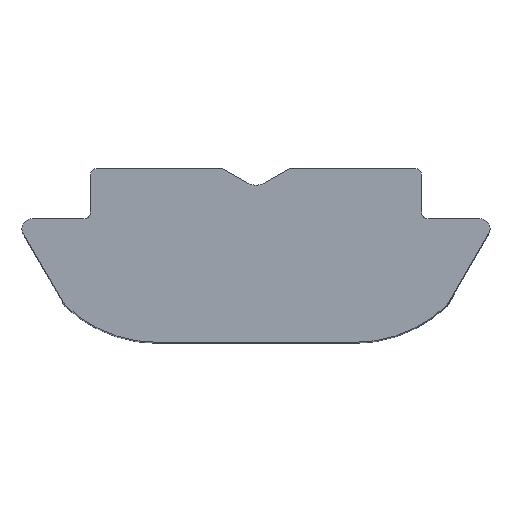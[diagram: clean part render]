
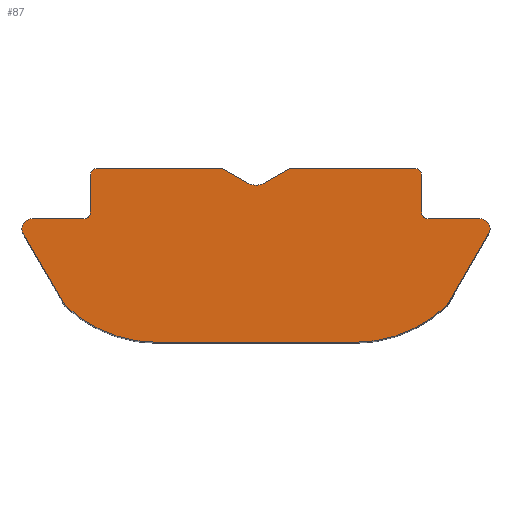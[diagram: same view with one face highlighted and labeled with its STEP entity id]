
A CAD part, top view. The second image highlights one B-rep face of the part: STEP entity #87.
In plain terms, the highlighted planar face has unit normal (0, 0, 1).
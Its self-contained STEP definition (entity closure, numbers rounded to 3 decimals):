
#87=ADVANCED_FACE('NONE',(#181),#182,.F.);
#181=FACE_OUTER_BOUND('',#279,.T.);
#182=PLANE('',#280);
#279=EDGE_LOOP('',(#478,#479,#480,#481,#482,#483,#484,#485,#486,#487,#488,#489,#490,#491,#492,#493,#494,#495,#496,#497,#498,#499,#500));
#280=AXIS2_PLACEMENT_3D('',#501,#502,#503);
#478=ORIENTED_EDGE('',*,*,#658,.T.);
#479=ORIENTED_EDGE('',*,*,#670,.T.);
#480=ORIENTED_EDGE('',*,*,#690,.T.);
#481=ORIENTED_EDGE('',*,*,#645,.T.);
#482=ORIENTED_EDGE('',*,*,#701,.T.);
#483=ORIENTED_EDGE('',*,*,#702,.T.);
#484=ORIENTED_EDGE('',*,*,#654,.T.);
#485=ORIENTED_EDGE('',*,*,#663,.T.);
#486=ORIENTED_EDGE('',*,*,#651,.T.);
#487=ORIENTED_EDGE('',*,*,#696,.T.);
#488=ORIENTED_EDGE('',*,*,#699,.T.);
#489=ORIENTED_EDGE('',*,*,#703,.T.);
#490=ORIENTED_EDGE('',*,*,#704,.T.);
#491=ORIENTED_EDGE('',*,*,#705,.T.);
#492=ORIENTED_EDGE('',*,*,#706,.T.);
#493=ORIENTED_EDGE('',*,*,#707,.T.);
#494=ORIENTED_EDGE('',*,*,#708,.T.);
#495=ORIENTED_EDGE('',*,*,#665,.T.);
#496=ORIENTED_EDGE('',*,*,#709,.T.);
#497=ORIENTED_EDGE('',*,*,#710,.T.);
#498=ORIENTED_EDGE('',*,*,#686,.T.);
#499=ORIENTED_EDGE('',*,*,#711,.T.);
#500=ORIENTED_EDGE('',*,*,#712,.T.);
#501=CARTESIAN_POINT('',(7.182,-2.158,9.5));
#502=DIRECTION('',(-0.0,-0.0,-1.0));
#503=DIRECTION('',(0.0,-1.0,0.0));
#645=EDGE_CURVE('NONE',#787,#785,#788,.T.);
#651=EDGE_CURVE('NONE',#791,#796,#798,.T.);
#654=EDGE_CURVE('NONE',#802,#800,#803,.T.);
#658=EDGE_CURVE('NONE',#808,#806,#809,.T.);
#663=EDGE_CURVE('NONE',#800,#791,#815,.T.);
#665=EDGE_CURVE('NONE',#817,#818,#819,.T.);
#670=EDGE_CURVE('NONE',#806,#823,#825,.T.);
#686=EDGE_CURVE('NONE',#851,#849,#852,.T.);
#690=EDGE_CURVE('NONE',#823,#787,#856,.T.);
#696=EDGE_CURVE('NONE',#796,#861,#863,.T.);
#699=EDGE_CURVE('NONE',#861,#865,#867,.T.);
#701=EDGE_CURVE('NONE',#785,#869,#870,.T.);
#702=EDGE_CURVE('NONE',#869,#802,#871,.T.);
#703=EDGE_CURVE('NONE',#865,#872,#873,.T.);
#704=EDGE_CURVE('NONE',#872,#874,#875,.T.);
#705=EDGE_CURVE('NONE',#874,#876,#877,.T.);
#706=EDGE_CURVE('NONE',#876,#878,#879,.T.);
#707=EDGE_CURVE('NONE',#878,#880,#881,.T.);
#708=EDGE_CURVE('NONE',#880,#817,#882,.T.);
#709=EDGE_CURVE('NONE',#818,#883,#884,.T.);
#710=EDGE_CURVE('NONE',#883,#851,#885,.T.);
#711=EDGE_CURVE('NONE',#849,#886,#887,.T.);
#712=EDGE_CURVE('NONE',#886,#808,#888,.T.);
#785=VERTEX_POINT('NONE',#972);
#787=VERTEX_POINT('NONE',#975);
#788=LINE('',#976,#977);
#791=VERTEX_POINT('NONE',#981);
#796=VERTEX_POINT('NONE',#997);
#798=LINE('',#1000,#1001);
#800=VERTEX_POINT('NONE',#1003);
#802=VERTEX_POINT('NONE',#1006);
#803=CIRCLE('',#1007,0.2);
#806=VERTEX_POINT('NONE',#1011);
#808=VERTEX_POINT('NONE',#1014);
#809=CIRCLE('',#1015,0.3);
#815=LINE('',#1023,#1024);
#817=VERTEX_POINT('NONE',#1026);
#818=VERTEX_POINT('NONE',#1027);
#819=CIRCLE('',#1028,0.3);
#823=VERTEX_POINT('',#1034);
#825=CIRCLE('',#1037,0.3);
#849=VERTEX_POINT('NONE',#1100);
#851=VERTEX_POINT('NONE',#1103);
#852=LINE('',#1104,#1105);
#856=CIRCLE('',#1110,0.3);
#861=VERTEX_POINT('NONE',#1121);
#863=CIRCLE('',#1124,0.5);
#865=VERTEX_POINT('NONE',#1126);
#867=LINE('',#1129,#1130);
#869=VERTEX_POINT('NONE',#1132);
#870=CIRCLE('',#1133,0.2);
#871=LINE('',#1134,#1135);
#872=VERTEX_POINT('NONE',#1136);
#873=LINE('',#1137,#1138);
#874=VERTEX_POINT('NONE',#1139);
#875=CIRCLE('',#1140,0.2);
#876=VERTEX_POINT('NONE',#1141);
#877=LINE('',#1142,#1143);
#878=VERTEX_POINT('NONE',#1144);
#879=CIRCLE('',#1145,0.2);
#880=VERTEX_POINT('NONE',#1146);
#881=LINE('',#1147,#1148);
#882=CIRCLE('',#1149,0.3);
#883=VERTEX_POINT('NONE',#1150);
#884=LINE('',#1151,#1152);
#885=CIRCLE('',#1153,4.0);
#886=VERTEX_POINT('NONE',#1154);
#887=CIRCLE('',#1155,4.0);
#888=LINE('',#1156,#1157);
#972=CARTESIAN_POINT('',(5.15,-1.5,9.5));
#975=CARTESIAN_POINT('',(6.7,-1.5,9.5));
#976=CARTESIAN_POINT('',(5.15,-1.5,9.5));
#977=VECTOR('',#1240,1000.0);
#981=CARTESIAN_POINT('',(1.0,0.,9.5));
#997=CARTESIAN_POINT('',(0.25,-0.433,9.5));
#1000=CARTESIAN_POINT('',(1.0,0.,9.5));
#1001=VECTOR('',#1244,1000.0);
#1003=CARTESIAN_POINT('',(4.75,0.,9.5));
#1006=CARTESIAN_POINT('',(4.95,-0.2,9.5));
#1007=AXIS2_PLACEMENT_3D('',#1246,#1247,#1248);
#1011=CARTESIAN_POINT('',(6.941,-1.979,9.5));
#1014=CARTESIAN_POINT('',(6.922,-2.008,9.5));
#1015=AXIS2_PLACEMENT_3D('',#1251,#1252,#1253);
#1023=CARTESIAN_POINT('',(4.75,0.,9.5));
#1024=VECTOR('',#1259,1000.0);
#1026=CARTESIAN_POINT('',(-7.0,-1.8,9.5));
#1027=CARTESIAN_POINT('',(-6.932,-1.99,9.5));
#1028=AXIS2_PLACEMENT_3D('',#1260,#1261,#1262);
#1034=CARTESIAN_POINT('',(7.0,-1.8,9.5));
#1037=AXIS2_PLACEMENT_3D('',#1266,#1267,#1268);
#1100=CARTESIAN_POINT('',(2.95,-5.2,9.5));
#1103=CARTESIAN_POINT('',(-2.95,-5.2,9.5));
#1104=CARTESIAN_POINT('',(-2.95,-5.2,9.5));
#1105=VECTOR('',#1279,1000.0);
#1110=AXIS2_PLACEMENT_3D('',#1284,#1285,#1286);
#1121=CARTESIAN_POINT('',(-0.25,-0.433,9.5));
#1124=AXIS2_PLACEMENT_3D('',#1288,#1289,#1290);
#1126=CARTESIAN_POINT('',(-1.,0.0,9.5));
#1129=CARTESIAN_POINT('',(-1.,0.0,9.5));
#1130=VECTOR('',#1292,1000.0);
#1132=CARTESIAN_POINT('',(4.95,-1.3,9.5));
#1133=AXIS2_PLACEMENT_3D('',#1293,#1294,#1295);
#1134=CARTESIAN_POINT('',(4.95,-0.2,9.5));
#1135=VECTOR('',#1296,1000.0);
#1136=CARTESIAN_POINT('',(-4.75,0.,9.5));
#1137=CARTESIAN_POINT('',(-1.,0.0,9.5));
#1138=VECTOR('',#1297,1000.0);
#1139=CARTESIAN_POINT('',(-4.95,-0.2,9.5));
#1140=AXIS2_PLACEMENT_3D('',#1298,#1299,#1300);
#1141=CARTESIAN_POINT('',(-4.95,-1.3,9.5));
#1142=CARTESIAN_POINT('',(-4.95,-0.2,9.5));
#1143=VECTOR('',#1301,1000.0);
#1144=CARTESIAN_POINT('',(-5.15,-1.5,9.5));
#1145=AXIS2_PLACEMENT_3D('',#1302,#1303,#1304);
#1146=CARTESIAN_POINT('',(-6.7,-1.5,9.5));
#1147=CARTESIAN_POINT('',(-5.15,-1.5,9.5));
#1148=VECTOR('',#1305,1000.0);
#1149=AXIS2_PLACEMENT_3D('',#1306,#1307,#1308);
#1150=CARTESIAN_POINT('',(-5.725,-4.081,9.5));
#1151=CARTESIAN_POINT('',(-6.932,-1.99,9.5));
#1152=VECTOR('',#1309,1000.0);
#1153=AXIS2_PLACEMENT_3D('',#1310,#1311,#1312);
#1154=CARTESIAN_POINT('',(5.725,-4.081,9.5));
#1155=AXIS2_PLACEMENT_3D('',#1313,#1314,#1315);
#1156=CARTESIAN_POINT('',(6.922,-2.008,9.5));
#1157=VECTOR('',#1316,1000.0);
#1240=DIRECTION('',(-1.0,-0.0,-0.0));
#1244=DIRECTION('',(-0.866,-0.5,0.0));
#1246=CARTESIAN_POINT('',(4.75,-0.2,9.5));
#1247=DIRECTION('',(0.0,0.0,1.0));
#1248=DIRECTION('',(1.0,0.0,0.0));
#1251=CARTESIAN_POINT('',(7.182,-2.158,9.5));
#1252=DIRECTION('',(0.0,0.0,-1.0));
#1253=DIRECTION('',(-1.0,0.0,0.0));
#1259=DIRECTION('',(-1.0,0.,0.0));
#1260=CARTESIAN_POINT('',(-6.7,-1.8,9.5));
#1261=DIRECTION('',(0.0,0.0,1.0));
#1262=DIRECTION('',(1.0,0.0,0.0));
#1266=CARTESIAN_POINT('',(6.7,-1.8,9.5));
#1267=DIRECTION('',(0.0,0.0,1.0));
#1268=DIRECTION('',(-1.0,0.0,0.0));
#1279=DIRECTION('',(1.0,0.,0.0));
#1284=CARTESIAN_POINT('',(6.7,-1.8,9.5));
#1285=DIRECTION('',(0.0,0.0,1.0));
#1286=DIRECTION('',(-1.0,0.0,0.0));
#1288=CARTESIAN_POINT('',(0.,0.,9.5));
#1289=DIRECTION('',(0.0,0.0,-1.0));
#1290=DIRECTION('',(1.0,0.0,0.0));
#1292=DIRECTION('',(-0.866,0.5,-0.0));
#1293=CARTESIAN_POINT('',(5.15,-1.3,9.5));
#1294=DIRECTION('',(0.0,0.0,-1.0));
#1295=DIRECTION('',(1.0,0.0,0.0));
#1296=DIRECTION('',(0.,1.0,-0.0));
#1297=DIRECTION('',(-1.0,0.,0.0));
#1298=CARTESIAN_POINT('',(-4.75,-0.2,9.5));
#1299=DIRECTION('',(0.0,0.0,1.0));
#1300=DIRECTION('',(1.0,0.0,0.0));
#1301=DIRECTION('',(0.0,-1.0,0.0));
#1302=CARTESIAN_POINT('',(-5.15,-1.3,9.5));
#1303=DIRECTION('',(0.0,0.0,-1.0));
#1304=DIRECTION('',(-1.0,0.0,0.0));
#1305=DIRECTION('',(-1.0,0.,0.0));
#1306=CARTESIAN_POINT('',(-6.7,-1.8,9.5));
#1307=DIRECTION('',(0.0,0.0,1.0));
#1308=DIRECTION('',(1.0,0.0,0.0));
#1309=DIRECTION('',(0.5,-0.866,0.0));
#1310=CARTESIAN_POINT('',(-2.95,-1.2,9.5));
#1311=DIRECTION('',(0.0,0.0,1.0));
#1312=DIRECTION('',(1.0,0.0,0.0));
#1313=CARTESIAN_POINT('',(2.95,-1.2,9.5));
#1314=DIRECTION('',(0.0,0.0,1.0));
#1315=DIRECTION('',(-1.0,0.0,0.0));
#1316=DIRECTION('',(0.5,0.866,-0.0));
